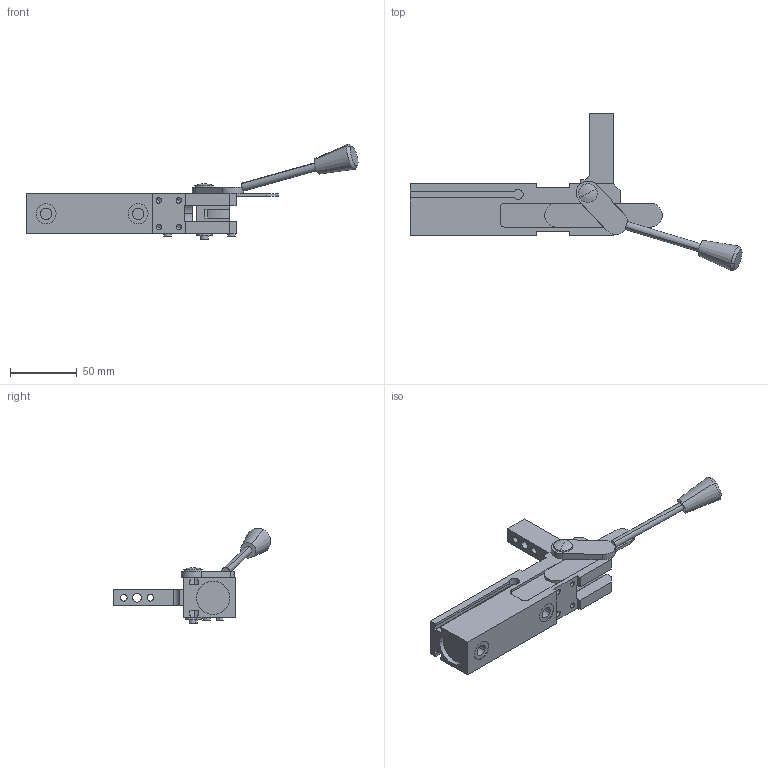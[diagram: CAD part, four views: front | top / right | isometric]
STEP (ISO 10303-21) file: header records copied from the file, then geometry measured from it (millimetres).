
FILE_DESCRIPTION(('CATIA V5 STEP Exchange'),'2;1');
FILE_NAME('C:\Users\huberm\Desktop\PKS_20_1_ZL_A18_T03_TUENKERS.stp','2016-09-19T08:53:21+00:00',('none'),('none'),'CATIA Version 5 Release 19 SP 9 (IN-10)','CATIA V5 STEP AP214','none');
FILE_SCHEMA(('AUTOMOTIVE_DESIGN { 1 0 10303 214 1 1 1 1 }'));
Length unit declared in the file: millimetre
Products named in the file (1): PKS_20_1_ZL_A18_T03_TUENKERS
Bounding box: 248.8 x 118.33 x 71.63 mm (x, y, z)
Volume: 165649.4 mm3; surface area: 42528.6 mm2
Topology: 2 solids, 2 shells, 185 faces, 490 edges, 302 vertices
Faces by surface type: plane 93, cylinder 64, cone 22, torus 4, sphere 2
Entity records: 6397 total; most frequent: ORIENTED_EDGE 944, CARTESIAN_POINT 884, DIRECTION 690, EDGE_CURVE 472, VECTOR 307, LINE 307, VERTEX_POINT 302, AXIS2_PLACEMENT_3D 275
